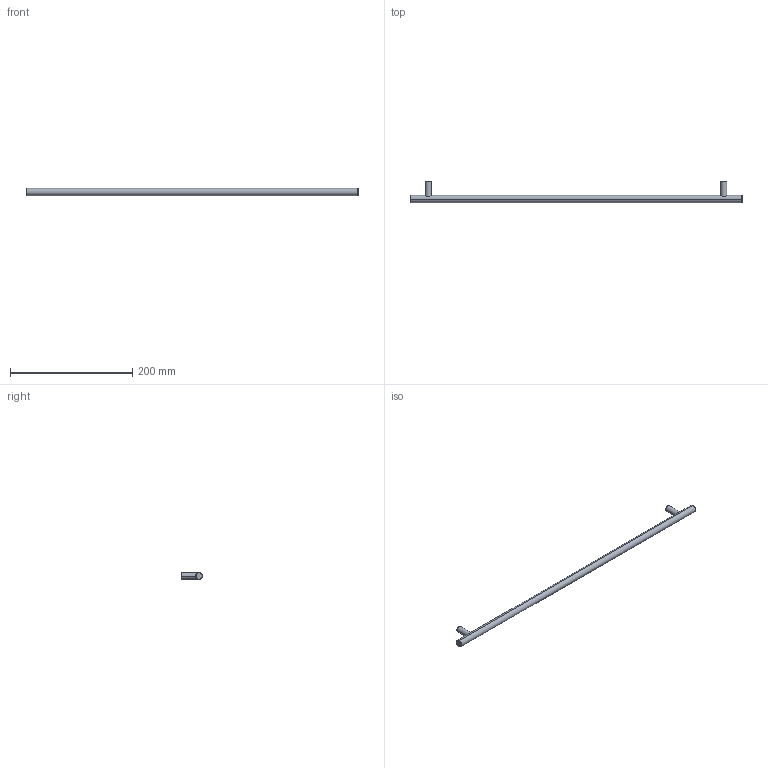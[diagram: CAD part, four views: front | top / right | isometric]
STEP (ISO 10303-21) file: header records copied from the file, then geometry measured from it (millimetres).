
FILE_DESCRIPTION( ( '' ), '1' );
FILE_NAME( 'C:/Documents and Settings/Sachin/Desktop/Sheet 10_1/stp/9070738.stp', '2013-10-22T12:38:53', ( '' ), ( '' ), ' ', ' ', ' ' );
FILE_SCHEMA( ( 'CONFIG_CONTROL_DESIGN' ) );
Length unit declared in the file: millimetre
Products named in the file (1): 1
Bounding box: 544 x 35 x 12 mm (x, y, z)
Volume: 65012.4 mm3; surface area: 22406.1 mm2
Topology: 1 solids, 1 shells, 20 faces, 44 edges, 30 vertices
Faces by surface type: cylinder 10, plane 6, torus 4
Entity records: 738 total; most frequent: CARTESIAN_POINT 229, DIRECTION 108, ORIENTED_EDGE 88, AXIS2_PLACEMENT_3D 49, EDGE_CURVE 44, VERTEX_POINT 30, CIRCLE 28, EDGE_LOOP 24
